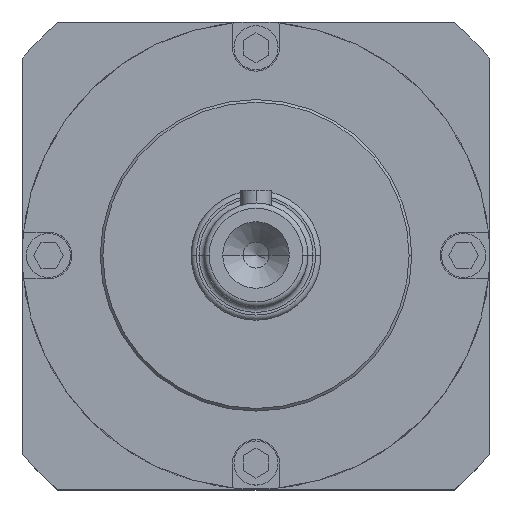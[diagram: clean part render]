
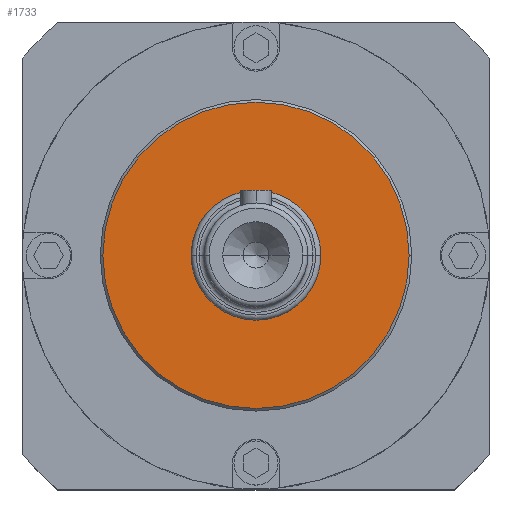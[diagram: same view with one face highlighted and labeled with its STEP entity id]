
A CAD part, top view. The second image highlights one B-rep face of the part: STEP entity #1733.
In plain terms, the highlighted planar face has unit normal (0, 0, 1).
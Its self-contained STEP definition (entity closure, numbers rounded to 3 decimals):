
#16 = EDGE_LOOP ( 'NONE', ( #3083, #3736 ) ) ;
#134 = EDGE_CURVE ( 'NONE', #2111, #2269, #2858, .T. ) ;
#393 = VERTEX_POINT ( 'NONE', #399 ) ;
#399 = CARTESIAN_POINT ( 'NONE',  ( -29.5, 0., 25. ) ) ;
#430 = DIRECTION ( 'NONE',  ( 1., 0., 0. ) ) ;
#448 = DIRECTION ( 'NONE',  ( 0., 0., 1. ) ) ;
#637 = CARTESIAN_POINT ( 'NONE',  ( 0., 0., 25. ) ) ;
#685 = CARTESIAN_POINT ( 'NONE',  ( 29.5, 0., 25. ) ) ;
#706 = FACE_OUTER_BOUND ( 'NONE', #16, .T. ) ;
#1431 = CARTESIAN_POINT ( 'NONE',  ( -12.5, 0., 25. ) ) ;
#1460 = ORIENTED_EDGE ( 'NONE', *, *, #2686, .F. ) ;
#1565 = DIRECTION ( 'NONE',  ( 0., 0., 1. ) ) ;
#1619 = ORIENTED_EDGE ( 'NONE', *, *, #134, .F. ) ;
#1625 = DIRECTION ( 'NONE',  ( 1., 0., 0. ) ) ;
#1632 = PLANE ( 'NONE',  #2085 ) ;
#1733 = ADVANCED_FACE ( 'NONE', ( #2138, #706 ), #1632, .T. ) ;
#1826 = AXIS2_PLACEMENT_3D ( 'NONE', #3884, #3547, #1625 ) ;
#1911 = VERTEX_POINT ( 'NONE', #685 ) ;
#2085 = AXIS2_PLACEMENT_3D ( 'NONE', #637, #3879, #3516 ) ;
#2111 = VERTEX_POINT ( 'NONE', #3259 ) ;
#2138 = FACE_BOUND ( 'NONE', #3895, .T. ) ;
#2213 = CARTESIAN_POINT ( 'NONE',  ( 0., 0., 25. ) ) ;
#2269 = VERTEX_POINT ( 'NONE', #1431 ) ;
#2288 = CIRCLE ( 'NONE', #1826, 12.5 ) ;
#2358 = CARTESIAN_POINT ( 'NONE',  ( 0., 0., 25. ) ) ;
#2686 = EDGE_CURVE ( 'NONE', #2269, #2111, #2288, .T. ) ;
#2782 = CIRCLE ( 'NONE', #4042, 29.5 ) ;
#2858 = CIRCLE ( 'NONE', #4095, 12.5 ) ;
#2875 = AXIS2_PLACEMENT_3D ( 'NONE', #2358, #3999, #3671 ) ;
#2910 = EDGE_CURVE ( 'NONE', #1911, #393, #2782, .T. ) ;
#3083 = ORIENTED_EDGE ( 'NONE', *, *, #3858, .T. ) ;
#3103 = CARTESIAN_POINT ( 'NONE',  ( 0., 0., 25. ) ) ;
#3259 = CARTESIAN_POINT ( 'NONE',  ( 12.5, 0., 25. ) ) ;
#3493 = DIRECTION ( 'NONE',  ( 1., 0., 0. ) ) ;
#3516 = DIRECTION ( 'NONE',  ( 1., 0., 0. ) ) ;
#3547 = DIRECTION ( 'NONE',  ( 0., 0., 1. ) ) ;
#3671 = DIRECTION ( 'NONE',  ( 1., 0., 0. ) ) ;
#3736 = ORIENTED_EDGE ( 'NONE', *, *, #2910, .T. ) ;
#3858 = EDGE_CURVE ( 'NONE', #393, #1911, #3944, .T. ) ;
#3879 = DIRECTION ( 'NONE',  ( 0., 0., 1. ) ) ;
#3884 = CARTESIAN_POINT ( 'NONE',  ( 0., 0., 25. ) ) ;
#3895 = EDGE_LOOP ( 'NONE', ( #1619, #1460 ) ) ;
#3944 = CIRCLE ( 'NONE', #2875, 29.5 ) ;
#3999 = DIRECTION ( 'NONE',  ( 0., 0., 1. ) ) ;
#4042 = AXIS2_PLACEMENT_3D ( 'NONE', #3103, #448, #430 ) ;
#4095 = AXIS2_PLACEMENT_3D ( 'NONE', #2213, #1565, #3493 ) ;
